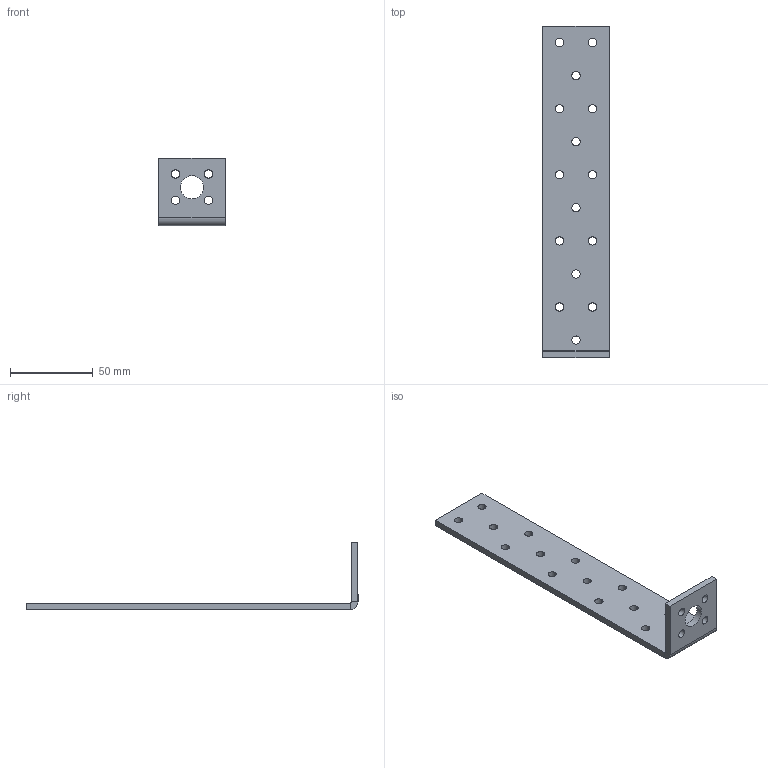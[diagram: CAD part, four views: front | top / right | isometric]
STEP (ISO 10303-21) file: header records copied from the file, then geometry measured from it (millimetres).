
FILE_DESCRIPTION (( 'STEP AP203' ), '1' );
FILE_NAME ('524.STEP', '2021-06-22T13:45:44', ( '' ), ( '' ), 'SwSTEP 2.0', 'SolidWorks 2013', '' );
FILE_SCHEMA (( 'CONFIG_CONTROL_DESIGN' ));
Length unit declared in the file: millimetre
Products named in the file (1): 524
Bounding box: 40 x 200.84 x 40.84 mm (x, y, z)
Volume: 35734.1 mm3; surface area: 21448.9 mm2
Topology: 1 solids, 1 shells, 54 faces, 148 edges, 96 vertices
Faces by surface type: cylinder 42, plane 12
Entity records: 1911 total; most frequent: DIRECTION 342, CARTESIAN_POINT 299, ORIENTED_EDGE 296, EDGE_CURVE 148, AXIS2_PLACEMENT_3D 139, VERTEX_POINT 96, EDGE_LOOP 94, CIRCLE 84
